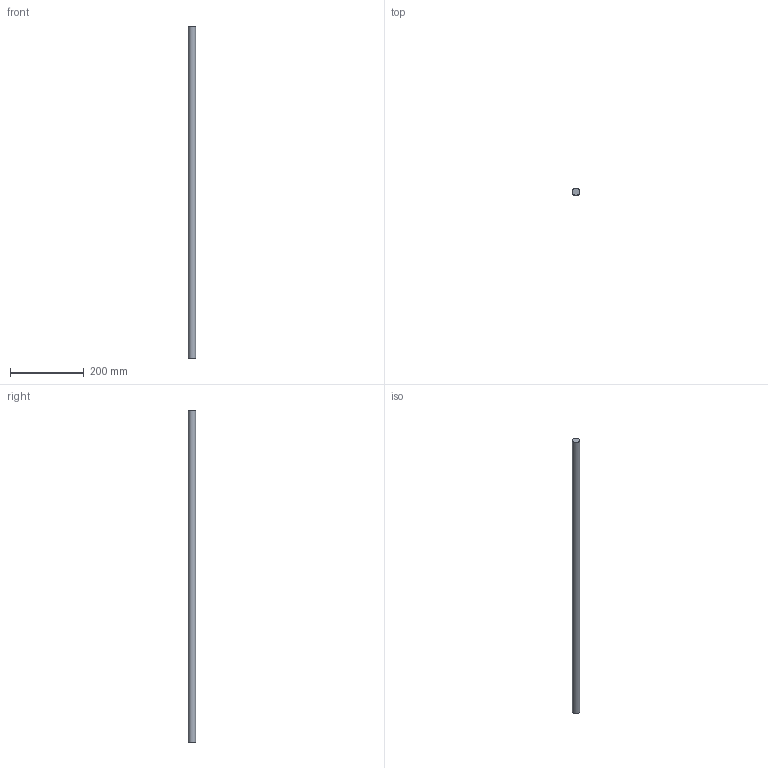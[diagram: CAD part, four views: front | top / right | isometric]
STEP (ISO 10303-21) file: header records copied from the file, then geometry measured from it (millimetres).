
FILE_DESCRIPTION(/* description */ (''),/* implementation_level */ '2;1');
FILE_NAME(/* name */ 'C:\Users\David\Desktop\stepFiles\Profilfuehrung\WF20x900.stp',/* time_stamp */ '2018-06-24T15:49:04+02:00',/* author */ ('David'),/* organization */ (''),/* preprocessor_version */ 'ST-DEVELOPER v17',/* originating_system */ 'Autodesk Inventor 2019',/* authorisation */ '');
FILE_SCHEMA (('AUTOMOTIVE_DESIGN { 1 0 10303 214 3 1 1 }'));
Length unit declared in the file: millimetre
Products named in the file (1): Wellenfuehrung
Bounding box: 20 x 20 x 900 mm (x, y, z)
Volume: 282743.3 mm3; surface area: 57177 mm2
Topology: 1 solids, 1 shells, 3 faces, 3 edges, 2 vertices
Faces by surface type: plane 2, cylinder 1
Full cylindrical faces by diameter (mm): 20 x1
Entity records: 98 total; most frequent: DIRECTION 13, CARTESIAN_POINT 9, ORIENTED_EDGE 6, AXIS2_PLACEMENT_3D 6, FACE_OUTER_BOUND 3, EDGE_LOOP 3, EDGE_CURVE 3, ADVANCED_FACE 3
